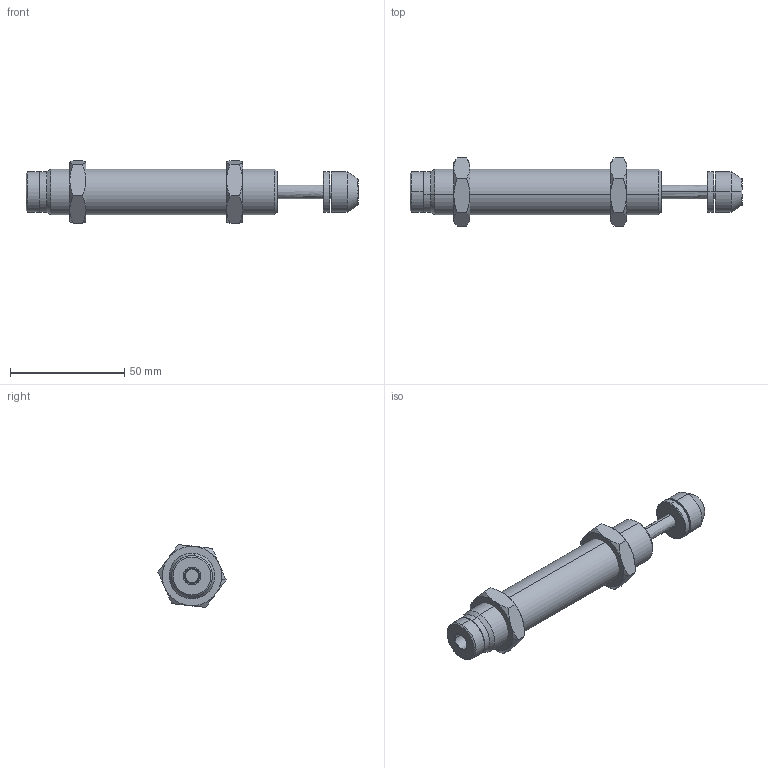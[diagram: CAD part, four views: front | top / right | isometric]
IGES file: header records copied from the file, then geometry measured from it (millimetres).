
Start section: SolidWorks IGES file using analytic representation for surfaces
Global section: file name: D:\IGS跡宒\AC2020(P2.0).IGS,1; native system: 5HSolidWorks 2013; preprocessor: SolidWorks 2013; author: Administrator; date: 160412.105821; units: inch
Bounding box: 145.3 x 29.82 x 27.55 mm (x, y, z)
Surface area: 12787.3 mm2 (no closed solid volume)
Topology: 0 solids, 0 shells, 96 faces, 1444 edges, 1444 vertices
Faces by surface type: revolution 72, bspline 24
